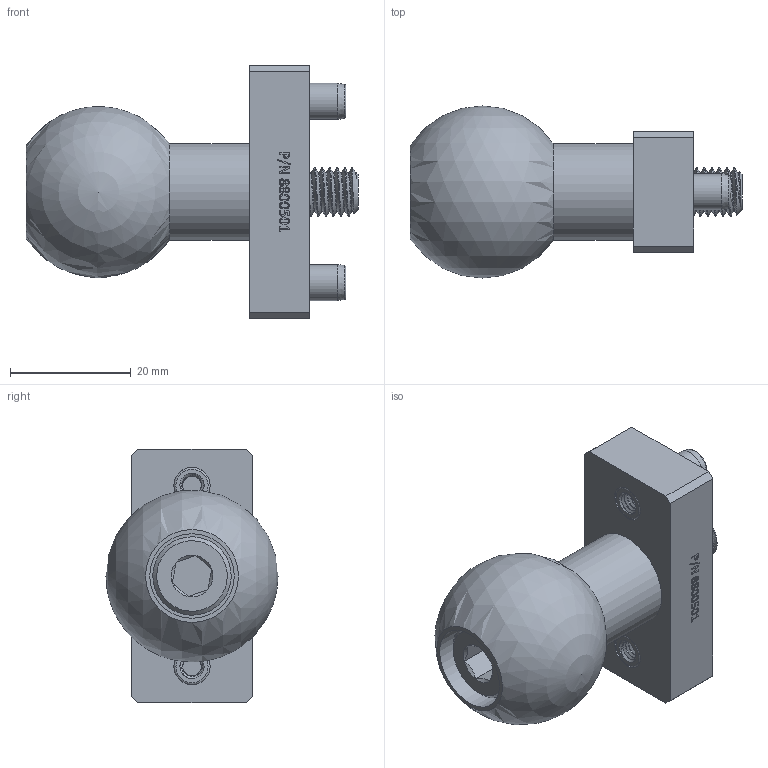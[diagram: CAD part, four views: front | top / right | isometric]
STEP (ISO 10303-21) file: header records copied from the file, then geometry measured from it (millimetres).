
FILE_DESCRIPTION (( 'STEP AP214' ), '1' );
FILE_NAME ('8800501_p.STEP', '2022-06-27T19:10:53', ( '' ), ( '' ), 'SwSTEP 2.0', 'SolidWorks 2018', '' );
FILE_SCHEMA (( 'AUTOMOTIVE_DESIGN' ));
Length unit declared in the file: millimetre
Products named in the file (2): 8800501_p
Bounding box: 55 x 28.5 x 42 mm (x, y, z)
Surface area: 9453.2 mm2 (no closed solid volume)
Topology: 0 solids, 13 shells, 164 faces, 953 edges, 780 vertices
Faces by surface type: plane 91, bspline 38, cylinder 18, cone 12, torus 4, sphere 1
Full cylindrical faces by diameter (mm): 6 x4, 8.4 x1, 14 x1, 16 x1
Entity records: 18446 total; most frequent: CARTESIAN_POINT 10651, ORIENTED_EDGE 1183, EDGE_CURVE 931, DIRECTION 775, VERTEX_POINT 774, B_SPLINE_CURVE_WITH_KNOTS 456, LINE 403, VECTOR 403
